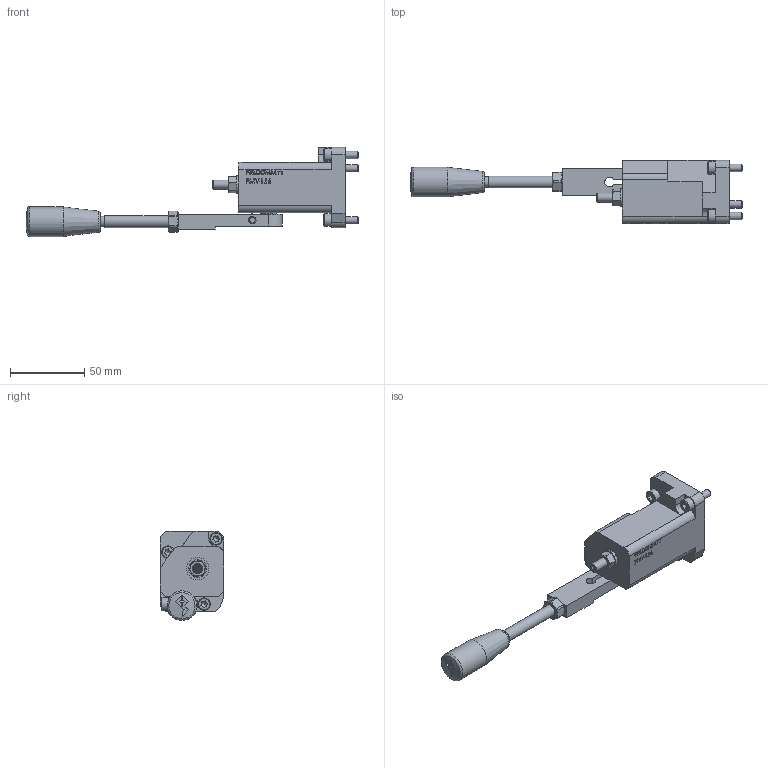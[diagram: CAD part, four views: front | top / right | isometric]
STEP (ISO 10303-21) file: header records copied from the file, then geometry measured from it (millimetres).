
FILE_DESCRIPTION (( 'STEP AP214' ), '1' );
FILE_NAME ('0301588.STEP', '2022-06-22T13:31:22', ( '' ), ( '' ), 'SwSTEP 2.0', 'SolidWorks 2020', '' );
FILE_SCHEMA (( 'AUTOMOTIVE_DESIGN' ));
Length unit declared in the file: millimetre
Products named in the file (13): 0073842_153.2301; 0301588; 0074697_246.2320; 0168771_001; 0074669_079.3125; 0301589^0287684_014; 0287538_001; 0285690_002; 0285678_002; 0290158_001; 0074288_153.1401; 0287536_001; 0074697_246.2119
Assembly tree (14 placements, depth 2):
  0301588
    0285678_002
    0285690_002
    0287536_001
    0287538_001
    0073842_153.2301
    0074697_246.2119  x3
    0074288_153.1401
    0074669_079.3125
    0074697_246.2320
    0301589^0287684_014
    0290158_001
    0168771_001
Bounding box: 223.7 x 42.5 x 60 mm (x, y, z)
Volume: 134664.5 mm3; surface area: 34175 mm2
Topology: 14 solids, 17 shells, 544 faces, 1312 edges, 843 vertices
Faces by surface type: plane 355, cylinder 77, cone 47, bspline 44, torus 20, sphere 1
Full cylindrical faces by diameter (mm): 1.78 x2, 3.5 x1, 4.2 x1, 4.47 x1, 5 x6, 5.1 x1, 5.5 x6, 6 x2, 6.8 x2, 7 x1, 7.12 x1, 7.5 x1, 7.8 x1, 8 x1, 8.03 x1, 8.5 x4, 10 x2, 11 x4, 12 x1, 15 x1, 20 x1
Entity records: 17386 total; most frequent: CARTESIAN_POINT 5625, ORIENTED_EDGE 2250, DIRECTION 2143, EDGE_CURVE 1125, VERTEX_POINT 767, LINE 761, VECTOR 761, AXIS2_PLACEMENT_3D 691
